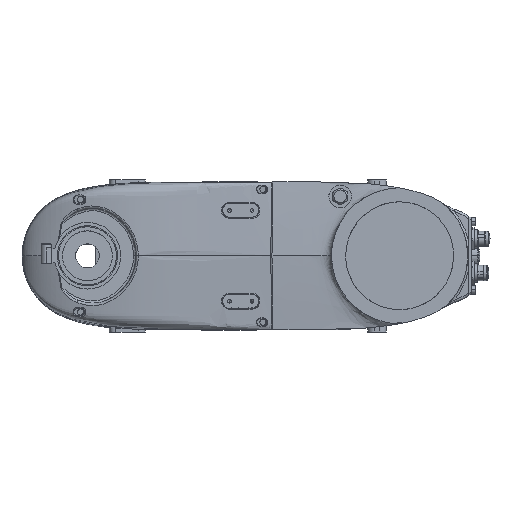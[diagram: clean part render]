
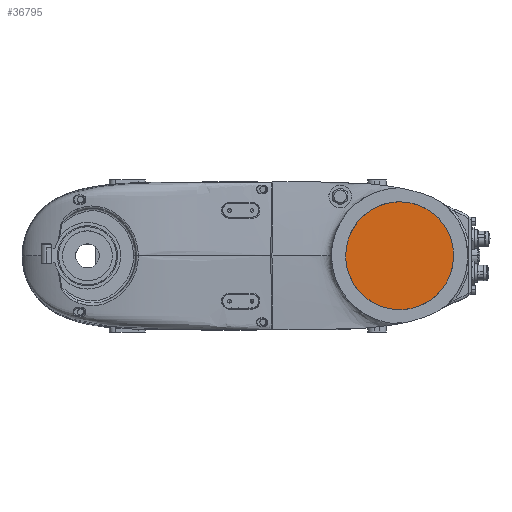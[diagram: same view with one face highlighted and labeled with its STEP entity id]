
A CAD part, top view. The second image highlights one B-rep face of the part: STEP entity #36795.
In plain terms, the highlighted planar face has unit normal (0, 0, 1).
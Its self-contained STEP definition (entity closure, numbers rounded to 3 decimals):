
#302 = EDGE_CURVE ( 'NONE', #20107, #84096, #25158, .T. ) ;
#3157 = CARTESIAN_POINT ( 'NONE',  ( 275., -47.5, -275. ) ) ;
#3737 = CARTESIAN_POINT ( 'NONE',  ( 290.305, -45.074, -275. ) ) ;
#4111 = CARTESIAN_POINT ( 'NONE',  ( 290.305, 45.074, -275. ) ) ;
#4335 = VERTEX_POINT ( 'NONE', #22334 ) ;
#5131 = CARTESIAN_POINT ( 'NONE',  ( 246.025, 37.768, -275. ) ) ;
#5427 = CARTESIAN_POINT ( 'NONE',  ( 227.5, 3.109, -275. ) ) ;
#5706 = CARTESIAN_POINT ( 'NONE',  ( 268.782, 47.194, -275. ) ) ;
#6395 = CARTESIAN_POINT ( 'NONE',  ( 322.5, 0., -275. ) ) ;
#7148 = CARTESIAN_POINT ( 'NONE',  ( 227.5, 0., -275. ) ) ;
#8240 = CARTESIAN_POINT ( 'NONE',  ( 259.695, -45.074, -275. ) ) ;
#8831 = CARTESIAN_POINT ( 'NONE',  ( 275., -47.5, -275. ) ) ;
#8975 = CARTESIAN_POINT ( 'NONE',  ( 322.5, 0., -275. ) ) ;
#9257 = CARTESIAN_POINT ( 'NONE',  ( 320.981, -12.316, -275. ) ) ;
#10365 = CARTESIAN_POINT ( 'NONE',  ( 275., 47.5, -275. ) ) ;
#11640 = CARTESIAN_POINT ( 'NONE',  ( 310.786, 31.389, -275. ) ) ;
#11787 = CARTESIAN_POINT ( 'NONE',  ( 262.684, 45.981, -275. ) ) ;
#11857 = B_SPLINE_CURVE_WITH_KNOTS ( 'NONE', 3,
 ( #18064, #37278, #71043, #37854, #4111, #71634, #17468, #78021, #64647, #11640, #25046, #24738, #38153, #84743, #52650, #39303, #46524, #6395 ),
 .UNSPECIFIED., .F., .F.,
 ( 4, 2, 2, 2, 2, 2, 2, 2, 4 ),
 ( 0., 0.125, 0.25, 0.375, 0.5, 0.625, 0.75, 0.875, 1. ),
 .UNSPECIFIED. ) ;
#14118 = CARTESIAN_POINT ( 'NONE',  ( 237.232, 28.975, -275. ) ) ;
#14293 = PLANE ( 'NONE',  #47674 ) ;
#17468 = CARTESIAN_POINT ( 'NONE',  ( 298.805, 41.222, -275. ) ) ;
#18064 = CARTESIAN_POINT ( 'NONE',  ( 275., 47.5, -275. ) ) ;
#18790 = CARTESIAN_POINT ( 'NONE',  ( 239.214, 31.389, -275. ) ) ;
#19532 = CARTESIAN_POINT ( 'NONE',  ( 227.5, 0., -275. ) ) ;
#20107 = VERTEX_POINT ( 'NONE', #19532 ) ;
#20535 = CARTESIAN_POINT ( 'NONE',  ( 251.195, 41.222, -275. ) ) ;
#20831 = CARTESIAN_POINT ( 'NONE',  ( 243.611, 35.786, -275. ) ) ;
#21940 = CARTESIAN_POINT ( 'NONE',  ( 229.926, -15.305, -275. ) ) ;
#21949 = EDGE_CURVE ( 'NONE', #84096, #4335, #11857, .T. ) ;
#22235 = CARTESIAN_POINT ( 'NONE',  ( 246.025, -37.768, -275. ) ) ;
#22334 = CARTESIAN_POINT ( 'NONE',  ( 322.5, 0., -275. ) ) ;
#23222 = CARTESIAN_POINT ( 'NONE',  ( 287.316, -45.981, -275. ) ) ;
#24064 = CARTESIAN_POINT ( 'NONE',  ( 281.218, -47.194, -275. ) ) ;
#24738 = CARTESIAN_POINT ( 'NONE',  ( 316.222, 23.805, -275. ) ) ;
#25046 = CARTESIAN_POINT ( 'NONE',  ( 312.768, 28.975, -275. ) ) ;
#25158 = B_SPLINE_CURVE_WITH_KNOTS ( 'NONE', 3,
 ( #7148, #5427, #25488, #47284, #65102, #60395, #58959, #14118, #18790, #20831, #5131, #20535, #78176, #51941, #11787, #5706, #65672, #58369 ),
 .UNSPECIFIED., .F., .F.,
 ( 4, 2, 2, 2, 2, 2, 2, 2, 4 ),
 ( 0., 0.125, 0.25, 0.375, 0.5, 0.625, 0.75, 0.875, 1. ),
 .UNSPECIFIED. ) ;
#25453 = VERTEX_POINT ( 'NONE', #59302 ) ;
#25488 = CARTESIAN_POINT ( 'NONE',  ( 227.806, 6.218, -275. ) ) ;
#25633 = EDGE_LOOP ( 'NONE', ( #43885, #74770, #66041, #83796 ) ) ;
#28909 = CARTESIAN_POINT ( 'NONE',  ( 227.806, -6.218, -275. ) ) ;
#29194 = EDGE_CURVE ( 'NONE', #25453, #20107, #72284, .T. ) ;
#29909 = CARTESIAN_POINT ( 'NONE',  ( 303.975, -37.768, -275. ) ) ;
#30776 = CARTESIAN_POINT ( 'NONE',  ( 310.786, -31.389, -275. ) ) ;
#36795 = ADVANCED_FACE ( 'NONE', ( #61714 ), #14293, .F. ) ;
#37278 = CARTESIAN_POINT ( 'NONE',  ( 278.109, 47.5, -275. ) ) ;
#37469 = CARTESIAN_POINT ( 'NONE',  ( 306.389, -35.786, -275. ) ) ;
#37854 = CARTESIAN_POINT ( 'NONE',  ( 287.316, 45.981, -275. ) ) ;
#38153 = CARTESIAN_POINT ( 'NONE',  ( 317.695, 21.05, -275. ) ) ;
#39303 = CARTESIAN_POINT ( 'NONE',  ( 322.194, 6.218, -275. ) ) ;
#40790 = CARTESIAN_POINT ( 'NONE',  ( 275., 47.5, -275. ) ) ;
#42331 = B_SPLINE_CURVE_WITH_KNOTS ( 'NONE', 3,
 ( #8975, #55551, #42441, #9257, #55825, #69806, #43286, #62840, #30776, #37469, #29909, #76781, #83791, #3737, #23222, #24064, #43552, #3157 ),
 .UNSPECIFIED., .F., .F.,
 ( 4, 2, 2, 2, 2, 2, 2, 2, 4 ),
 ( 0., 0.125, 0.25, 0.375, 0.5, 0.625, 0.75, 0.875, 1. ),
 .UNSPECIFIED. ) ;
#42441 = CARTESIAN_POINT ( 'NONE',  ( 322.194, -6.218, -275. ) ) ;
#43286 = CARTESIAN_POINT ( 'NONE',  ( 316.222, -23.805, -275. ) ) ;
#43552 = CARTESIAN_POINT ( 'NONE',  ( 278.109, -47.5, -275. ) ) ;
#43885 = ORIENTED_EDGE ( 'NONE', *, *, #29194, .F. ) ;
#46524 = CARTESIAN_POINT ( 'NONE',  ( 322.5, 3.109, -275. ) ) ;
#47284 = CARTESIAN_POINT ( 'NONE',  ( 229.019, 12.316, -275. ) ) ;
#47466 = DIRECTION ( 'NONE',  ( 0., 0., -1. ) ) ;
#47674 = AXIS2_PLACEMENT_3D ( 'NONE', #40790, #47466, #54451 ) ;
#48099 = CARTESIAN_POINT ( 'NONE',  ( 262.684, -45.981, -275. ) ) ;
#48396 = CARTESIAN_POINT ( 'NONE',  ( 233.778, -23.805, -275. ) ) ;
#49462 = EDGE_CURVE ( 'NONE', #4335, #25453, #42331, .T. ) ;
#51941 = CARTESIAN_POINT ( 'NONE',  ( 259.695, 45.074, -275. ) ) ;
#52650 = CARTESIAN_POINT ( 'NONE',  ( 320.981, 12.316, -275. ) ) ;
#54451 = DIRECTION ( 'NONE',  ( 0., -1., 0. ) ) ;
#54808 = CARTESIAN_POINT ( 'NONE',  ( 243.611, -35.786, -275. ) ) ;
#55551 = CARTESIAN_POINT ( 'NONE',  ( 322.5, -3.109, -275. ) ) ;
#55682 = CARTESIAN_POINT ( 'NONE',  ( 251.195, -41.222, -275. ) ) ;
#55825 = CARTESIAN_POINT ( 'NONE',  ( 320.074, -15.305, -275. ) ) ;
#58369 = CARTESIAN_POINT ( 'NONE',  ( 275., 47.5, -275. ) ) ;
#58959 = CARTESIAN_POINT ( 'NONE',  ( 233.778, 23.805, -275. ) ) ;
#59302 = CARTESIAN_POINT ( 'NONE',  ( 275., -47.5, -275. ) ) ;
#60395 = CARTESIAN_POINT ( 'NONE',  ( 232.305, 21.05, -275. ) ) ;
#61228 = CARTESIAN_POINT ( 'NONE',  ( 271.891, -47.5, -275. ) ) ;
#61714 = FACE_OUTER_BOUND ( 'NONE', #25633, .T. ) ;
#61822 = CARTESIAN_POINT ( 'NONE',  ( 232.305, -21.05, -275. ) ) ;
#62840 = CARTESIAN_POINT ( 'NONE',  ( 312.768, -28.975, -275. ) ) ;
#64647 = CARTESIAN_POINT ( 'NONE',  ( 306.389, 35.786, -275. ) ) ;
#65102 = CARTESIAN_POINT ( 'NONE',  ( 229.926, 15.305, -275. ) ) ;
#65672 = CARTESIAN_POINT ( 'NONE',  ( 271.891, 47.5, -275. ) ) ;
#66041 = ORIENTED_EDGE ( 'NONE', *, *, #21949, .F. ) ;
#68223 = CARTESIAN_POINT ( 'NONE',  ( 239.214, -31.389, -275. ) ) ;
#68804 = CARTESIAN_POINT ( 'NONE',  ( 229.019, -12.316, -275. ) ) ;
#69806 = CARTESIAN_POINT ( 'NONE',  ( 317.695, -21.05, -275. ) ) ;
#71043 = CARTESIAN_POINT ( 'NONE',  ( 281.218, 47.194, -275. ) ) ;
#71634 = CARTESIAN_POINT ( 'NONE',  ( 296.05, 42.695, -275. ) ) ;
#72284 = B_SPLINE_CURVE_WITH_KNOTS ( 'NONE', 3,
 ( #8831, #61228, #82229, #48099, #8240, #81066, #55682, #22235, #54808, #68223, #74922, #48396, #61822, #21940, #68804, #28909, #75501, #83345 ),
 .UNSPECIFIED., .F., .F.,
 ( 4, 2, 2, 2, 2, 2, 2, 2, 4 ),
 ( 0., 0.125, 0.25, 0.375, 0.5, 0.625, 0.75, 0.875, 1. ),
 .UNSPECIFIED. ) ;
#74770 = ORIENTED_EDGE ( 'NONE', *, *, #49462, .F. ) ;
#74922 = CARTESIAN_POINT ( 'NONE',  ( 237.232, -28.975, -275. ) ) ;
#75501 = CARTESIAN_POINT ( 'NONE',  ( 227.5, -3.109, -275. ) ) ;
#76781 = CARTESIAN_POINT ( 'NONE',  ( 298.805, -41.222, -275. ) ) ;
#78021 = CARTESIAN_POINT ( 'NONE',  ( 303.975, 37.768, -275. ) ) ;
#78176 = CARTESIAN_POINT ( 'NONE',  ( 253.95, 42.695, -275. ) ) ;
#81066 = CARTESIAN_POINT ( 'NONE',  ( 253.95, -42.695, -275. ) ) ;
#82229 = CARTESIAN_POINT ( 'NONE',  ( 268.782, -47.194, -275. ) ) ;
#83345 = CARTESIAN_POINT ( 'NONE',  ( 227.5, 0., -275. ) ) ;
#83791 = CARTESIAN_POINT ( 'NONE',  ( 296.05, -42.695, -275. ) ) ;
#83796 = ORIENTED_EDGE ( 'NONE', *, *, #302, .F. ) ;
#84096 = VERTEX_POINT ( 'NONE', #10365 ) ;
#84743 = CARTESIAN_POINT ( 'NONE',  ( 320.074, 15.305, -275. ) ) ;
